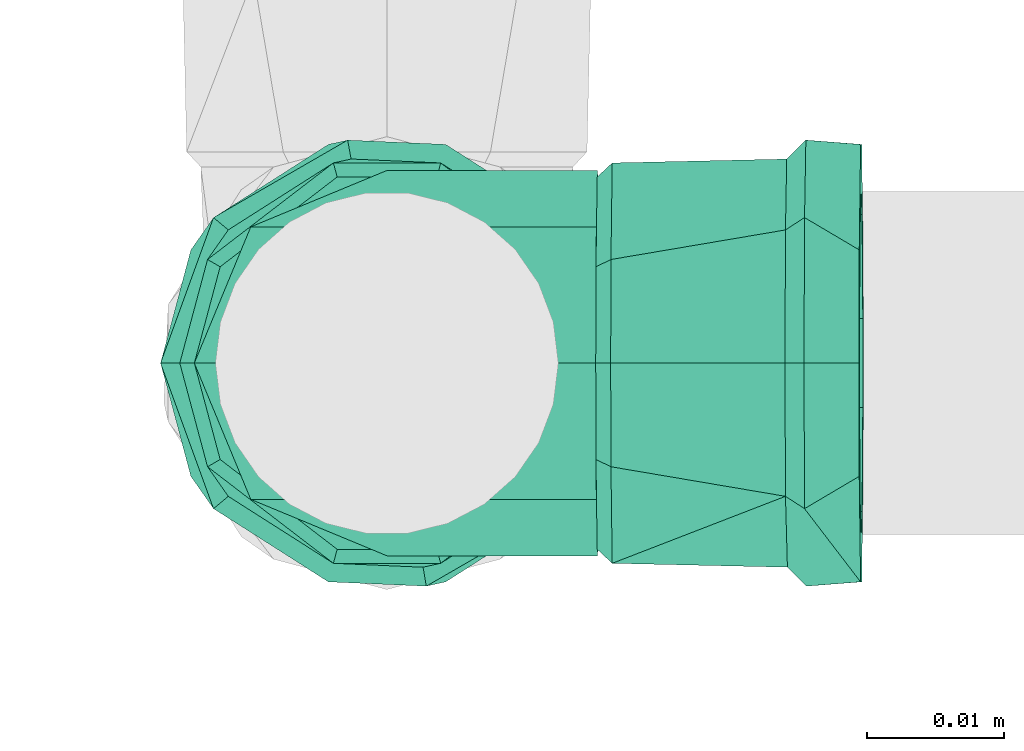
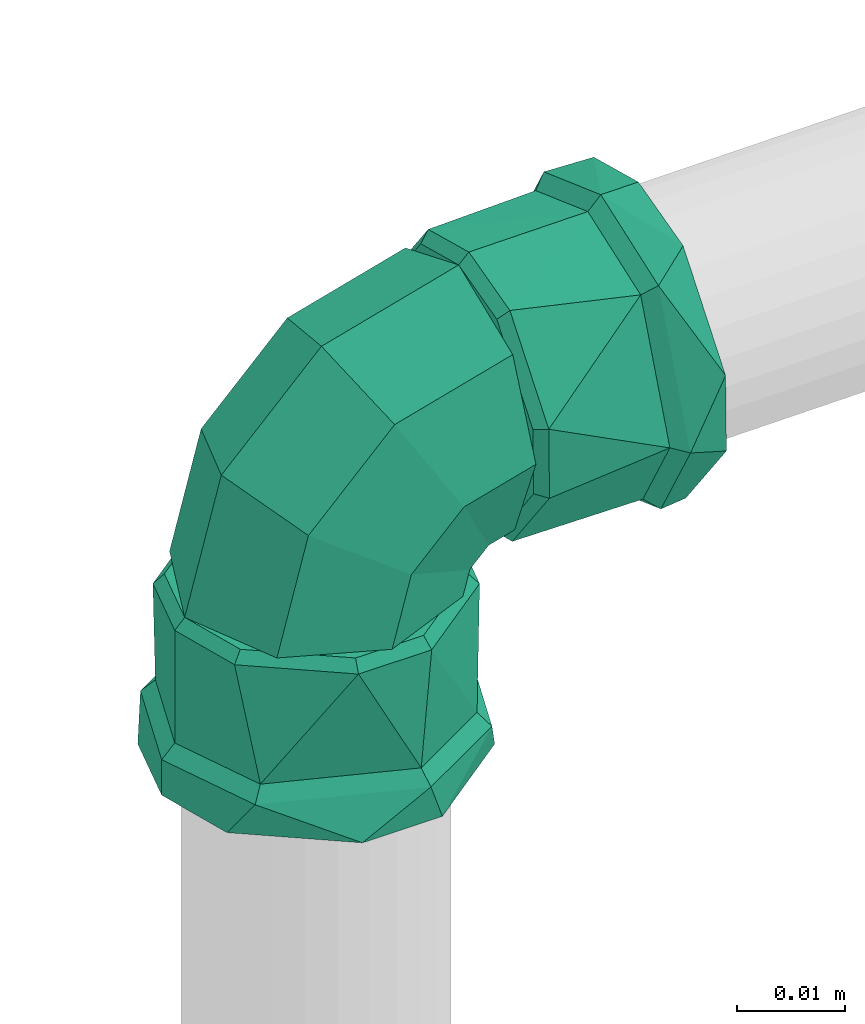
# One storey, part 366 of 589: 1 flow fitting.
"""IFC2X3 building model written with IfcOpenShell, lengths in millimetres."""

from ifc_helpers import new_model, entity, si_unit, converted_unit, derived_unit, direction, frame, origin, place, context, subcontext, project, spatial, faceted_brep, source, transform, mapped, material, type_object, type_shapes, element, save


model = new_model("IFC2X3")

# Units and contexts
model_context = context("Model", 3, precision=0.01, world=origin(), true_north=direction((6.123031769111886e-17, 1.0)))
body_context = subcontext(model_context, "Body", "Model", "MODEL_VIEW")
ifc_project = project(units=[si_unit("LENGTHUNIT", "METRE", prefix="MILLI"), si_unit("AREAUNIT", "SQUARE_METRE"), si_unit("VOLUMEUNIT", "CUBIC_METRE"), converted_unit("PLANEANGLEUNIT", "DEGREE", entity("IfcRatioMeasure", 0.017453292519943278), si_unit("PLANEANGLEUNIT", "RADIAN"), dimensions=[0, 0, 0, 0, 0, 0, 0]), si_unit("MASSUNIT", "GRAM", prefix="KILO"), derived_unit("MASSDENSITYUNIT", [(si_unit("MASSUNIT", "GRAM", prefix="KILO"), 1), (si_unit("LENGTHUNIT", "METRE"), -3)]), derived_unit("IONCONCENTRATIONUNIT", [(si_unit("MASSUNIT", "GRAM", prefix="KILO"), 1), (si_unit("LENGTHUNIT", "METRE"), -3)]), derived_unit("MOMENTOFINERTIAUNIT", [(si_unit("LENGTHUNIT", "METRE"), 4)]), si_unit("TIMEUNIT", "SECOND"), si_unit("FREQUENCYUNIT", "HERTZ"), si_unit("THERMODYNAMICTEMPERATUREUNIT", "DEGREE_CELSIUS"), derived_unit("THERMALTRANSMITTANCEUNIT", [(si_unit("MASSUNIT", "GRAM", prefix="KILO"), 1), (si_unit("THERMODYNAMICTEMPERATUREUNIT", "KELVIN"), -1), (si_unit("TIMEUNIT", "SECOND"), -3)]), derived_unit("THERMALCONDUCTANCEUNIT", [(si_unit("MASSUNIT", "GRAM", prefix="KILO"), 1), (si_unit("THERMODYNAMICTEMPERATUREUNIT", "KELVIN"), -1), (si_unit("TIMEUNIT", "SECOND"), -3), (si_unit("LENGTHUNIT", "METRE"), 1)]), derived_unit("VOLUMETRICFLOWRATEUNIT", [(si_unit("LENGTHUNIT", "METRE"), 3), (si_unit("TIMEUNIT", "SECOND"), -1)]), derived_unit("MASSFLOWRATEUNIT", [(si_unit("MASSUNIT", "GRAM", prefix="KILO"), 1), (si_unit("TIMEUNIT", "SECOND"), -1)]), derived_unit("ROTATIONALFREQUENCYUNIT", [(si_unit("TIMEUNIT", "SECOND"), -1)]), si_unit("ELECTRICCURRENTUNIT", "AMPERE"), si_unit("ELECTRICVOLTAGEUNIT", "VOLT"), si_unit("POWERUNIT", "WATT"), si_unit("FORCEUNIT", "NEWTON", prefix="KILO"), si_unit("ILLUMINANCEUNIT", "LUX"), si_unit("LUMINOUSFLUXUNIT", "LUMEN"), si_unit("LUMINOUSINTENSITYUNIT", "CANDELA"), derived_unit("USERDEFINED", [(si_unit("MASSUNIT", "GRAM", prefix="KILO"), -1), (si_unit("LENGTHUNIT", "METRE"), -2), (si_unit("TIMEUNIT", "SECOND"), 3), (si_unit("LUMINOUSFLUXUNIT", "LUMEN"), 1)]), derived_unit("USERDEFINED", [(si_unit("MASSUNIT", "GRAM", prefix="KILO"), 1), (si_unit("TIMEUNIT", "SECOND"), -3), (si_unit("LENGTHUNIT", "METRE"), 3), (si_unit("ELECTRICCURRENTUNIT", "AMPERE"), -2)]), derived_unit("SOUNDPOWERUNIT", [(si_unit("MASSUNIT", "GRAM", prefix="KILO"), 1), (si_unit("TIMEUNIT", "SECOND"), -3), (si_unit("LENGTHUNIT", "METRE"), 2)]), derived_unit("SOUNDPRESSUREUNIT", [(si_unit("MASSUNIT", "GRAM", prefix="KILO"), 1), (si_unit("LENGTHUNIT", "METRE"), -1), (si_unit("TIMEUNIT", "SECOND"), -2)]), derived_unit("LINEARVELOCITYUNIT", [(si_unit("LENGTHUNIT", "METRE"), 1), (si_unit("TIMEUNIT", "SECOND"), -1)]), si_unit("PRESSUREUNIT", "PASCAL"), derived_unit("USERDEFINED", [(si_unit("MASSUNIT", "GRAM", prefix="KILO"), 1), (si_unit("LENGTHUNIT", "METRE"), -2), (si_unit("TIMEUNIT", "SECOND"), -2)]), derived_unit("LINEARFORCEUNIT", [(si_unit("MASSUNIT", "GRAM", prefix="KILO"), 1), (si_unit("TIMEUNIT", "SECOND"), -2)]), derived_unit("PLANARFORCEUNIT", [(si_unit("MASSUNIT", "GRAM", prefix="KILO"), 1), (si_unit("LENGTHUNIT", "METRE"), -1), (si_unit("TIMEUNIT", "SECOND"), -2)]), derived_unit("SPECIFICHEATCAPACITYUNIT", [(si_unit("THERMODYNAMICTEMPERATUREUNIT", "KELVIN"), -1), (si_unit("LENGTHUNIT", "METRE"), 2), (si_unit("TIMEUNIT", "SECOND"), -2)]), derived_unit("HEATINGVALUEUNIT", [(si_unit("LENGTHUNIT", "METRE"), 2), (si_unit("TIMEUNIT", "SECOND"), -2)]), derived_unit("VAPORPERMEABILITYUNIT", [(si_unit("LENGTHUNIT", "METRE"), -1), (si_unit("TIMEUNIT", "SECOND"), 1)]), derived_unit("DYNAMICVISCOSITYUNIT", [(si_unit("MASSUNIT", "GRAM", prefix="KILO"), 1), (si_unit("TIMEUNIT", "SECOND"), -1), (si_unit("LENGTHUNIT", "METRE"), -1)]), derived_unit("THERMALEXPANSIONCOEFFICIENTUNIT", [(si_unit("THERMODYNAMICTEMPERATUREUNIT", "KELVIN"), -1)]), derived_unit("MODULUSOFELASTICITYUNIT", [(si_unit("MASSUNIT", "GRAM", prefix="KILO"), 1), (si_unit("LENGTHUNIT", "METRE"), -1), (si_unit("TIMEUNIT", "SECOND"), -2)]), derived_unit("ISOTHERMALMOISTURECAPACITYUNIT", [(si_unit("LENGTHUNIT", "METRE"), 3), (si_unit("MASSUNIT", "GRAM", prefix="KILO"), -1)]), derived_unit("MOISTUREDIFFUSIVITYUNIT", [(si_unit("TIMEUNIT", "SECOND"), -1), (si_unit("LENGTHUNIT", "METRE"), 2)])], contexts=[model_context])

# Site, building, storey
site_placement = place(None, origin())
site = spatial("IfcSite", under=ifc_project, at=site_placement, Name="Default", CompositionType="ELEMENT")
building_placement = place(site_placement, origin())
building = spatial("IfcBuilding", under=site, at=building_placement, CompositionType="ELEMENT")
storey_placement = place(building_placement, frame((0.0, 0.0, 100.0)))
storey = spatial("IfcBuildingStorey", under=building, at=storey_placement, Name="TÉRREO", CompositionType="ELEMENT", Elevation=100.0)

# Flow fitting
ifc_material = material(Name="PVC Marrom")
pipe_fitting_type = type_object("IfcPipeFittingType", Name="PVC Marrom Soldável_Joelho 45°_90°_Rodrigo MEP:Joelho", PredefinedType="NOTDEFINED", material=ifc_material)
shared_shape = source(origin(), body_context, "Body", "Brep", [
    faceted_brep([(4.072421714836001, -16.405873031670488, 14.585479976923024), (-3.7435226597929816, -16.48403247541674, 14.585479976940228), (-12.911880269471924, -16.57571605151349, 7.549999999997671), (-14.934795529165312, -16.59594520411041, 0.0), (-12.91188026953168, -16.575716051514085, -7.550000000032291), (-3.7435226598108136, -16.48403247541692, -14.585479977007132), (4.07242171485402, -16.405873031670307, -14.585479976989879), (13.240779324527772, -16.314189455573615, -7.55000000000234), (15.263694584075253, -16.29396030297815, 0.0), (13.240779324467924, -16.314189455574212, 7.549999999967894), (3.7870877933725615, -15.308671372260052, 13.561598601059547), (12.31183884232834, -15.223423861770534, 7.019999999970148), (14.192748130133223, -15.204614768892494, 0.0), (12.311838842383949, -15.223423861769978, -7.02000000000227), (3.7870877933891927, -15.308671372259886, -13.561598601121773), (-3.480187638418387, -15.381344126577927, -13.561598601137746), (-12.004938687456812, -15.466591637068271, -7.020000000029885), (-13.885847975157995, -15.485400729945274, 0.0), (-12.004938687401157, -15.466591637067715, 7.0199999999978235), (-3.4801876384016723, -15.38134412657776, 13.561598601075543)], [[[0, 1, 2, 3, 4, 5, 6, 7, 8, 9]], [[10, 11, 12, 13, 14, 15, 16, 17, 18, 19]], [[13, 12, 8, 7]], [[14, 13, 7, 6]], [[6, 5, 15, 14]], [[16, 15, 5, 4]], [[17, 16, 4, 3]], [[18, 17, 3, 2]], [[19, 18, 2, 1]], [[1, 0, 10, 19]], [[11, 10, 0, 9]], [[12, 11, 9, 8]]]),
    faceted_brep([(-16.445774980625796, -3.908167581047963, 14.585479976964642), (-16.445774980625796, 3.908167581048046, 14.585479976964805), (-16.445774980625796, 13.076983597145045, 7.550000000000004), (-16.445774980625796, 15.100000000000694, 0.0), (-16.445774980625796, 13.0769835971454, -7.550000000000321), (-16.445774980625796, 3.9081675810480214, -14.585479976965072), (-16.445774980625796, -3.9081675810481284, -14.58547997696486), (-16.445774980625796, -13.076983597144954, -7.54999999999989), (-16.445774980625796, -15.099999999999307, 0.0), (-16.445774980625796, -13.076983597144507, 7.549999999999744), (-15.345774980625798, 3.633819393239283, 13.56159860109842), (-15.345774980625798, -3.6338193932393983, 13.561598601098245), (-15.345774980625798, -12.158996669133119, 7.019999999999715), (-15.345774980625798, -14.040000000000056, 0.0), (-15.345774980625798, -12.158996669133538, -7.019999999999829), (-15.345774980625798, -3.6338193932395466, -13.56159860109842), (-15.345774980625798, 3.63381939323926, -13.561598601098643), (-15.345774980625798, 12.158996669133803, -7.020000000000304), (-15.345774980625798, 14.039999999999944, 0.0), (-15.345774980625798, 12.15899666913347, 7.020000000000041)], [[[0, 1, 2, 3, 4, 5, 6, 7, 8, 9]], [[10, 11, 12, 13, 14, 15, 16, 17, 18, 19]], [[14, 13, 8, 7]], [[15, 14, 7, 6]], [[6, 5, 16, 15]], [[17, 16, 5, 4]], [[18, 17, 4, 3]], [[19, 18, 3, 2]], [[10, 19, 2, 1]], [[1, 0, 11, 10]], [[12, 11, 0, 9]], [[13, 12, 9, 8]]]),
    faceted_brep([(-34.545774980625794, 0.0, -12.5), (-34.545774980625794, 6.250000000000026, -10.825317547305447), (-34.545774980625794, 4.2705142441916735, -15.937776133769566), (-34.545774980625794, -4.270514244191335, -15.937776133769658), (-34.545774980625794, -6.250000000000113, -10.82531754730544), (-34.545774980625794, 14.289419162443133, -8.25000000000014), (-34.545774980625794, 12.074072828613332, -3.23523806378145), (-34.545774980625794, 16.5, 0.0), (-34.545774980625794, 12.074072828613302, 3.2352380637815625), (-34.545774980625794, 14.289419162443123, 8.249999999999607), (-34.545774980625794, 6.249999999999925, 10.825317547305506), (-34.545774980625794, 4.27051424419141, 15.937776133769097), (-34.545774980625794, 0.0, 12.5), (-34.545774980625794, -4.270514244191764, 15.937776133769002), (-34.545774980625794, -6.249999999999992, 10.825317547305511), (-34.545774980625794, -14.28941916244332, 8.249999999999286), (-34.545774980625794, -12.074072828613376, 3.2352380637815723), (-34.545774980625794, -16.5, 0.0), (-34.545774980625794, -12.074072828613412, -3.235238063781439), (-34.545774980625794, -14.289419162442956, -8.250000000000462), (-30.545774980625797, -16.5, 0.0), (-30.545774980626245, -12.639142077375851, 10.606700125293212), (-30.545774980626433, -4.885841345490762, 13.427814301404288), (-30.54577498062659, 2.8674593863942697, 16.24892847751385), (-30.545774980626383, 12.64180232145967, 10.603529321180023), (-30.545774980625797, 16.499999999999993, 0.0), (-30.545774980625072, 12.641802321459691, -10.603529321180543), (-30.545774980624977, 4.889209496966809, -13.426588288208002), (-30.54577498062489, -2.8633833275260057, -16.249647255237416), (-30.545774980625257, -12.639142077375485, -10.606700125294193), (-29.145774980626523, 11.56916454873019, 9.703835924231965), (-29.145774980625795, 15.099999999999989, 0.0), (-29.145774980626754, 2.624159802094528, 14.870231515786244), (-29.145774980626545, -4.471285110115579, 12.288484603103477), (-29.14577498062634, -11.566730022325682, 9.706737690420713), (-29.145774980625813, -15.099999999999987, 0.0), (-29.14577498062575, -11.566730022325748, -9.706737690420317), (-29.145774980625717, -2.620429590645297, -14.87088930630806), (-29.14577498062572, 4.4743674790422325, -12.287362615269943), (-29.145774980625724, 11.569164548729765, -9.703835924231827), (-16.445774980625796, 3.908167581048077, -14.585479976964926), (-16.445774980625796, 6.250000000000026, -10.825317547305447), (-16.445774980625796, 0.0, -12.5), (-16.445774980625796, 13.076983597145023, -7.549999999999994), (-16.445774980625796, -3.9081675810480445, -14.585479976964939), (-16.445774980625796, 12.074072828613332, -3.23523806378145), (-16.445774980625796, 15.099999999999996, 0.0), (-16.445774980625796, 12.074072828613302, 3.2352380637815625), (-16.445774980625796, 13.076983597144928, 7.550000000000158), (-16.445774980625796, 6.249999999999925, 10.825317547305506), (-16.445774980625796, 3.9081675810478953, 14.585479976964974), (-16.445774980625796, 0.0, 12.5), (-16.445774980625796, -3.9081675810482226, 14.58547997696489), (-16.445774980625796, -6.249999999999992, 10.825317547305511), (-16.445774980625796, -13.076983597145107, 7.549999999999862), (-16.445774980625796, -12.074072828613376, 3.2352380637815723), (-16.445774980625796, -15.100000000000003, 0.0), (-16.445774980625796, -12.074072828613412, -3.235238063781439), (-16.445774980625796, -13.076983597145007, -7.550000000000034), (-16.445774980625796, -6.250000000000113, -10.82531754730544)], [[[0, 1, 2]], [[2, 3, 0]], [[4, 0, 3]], [[5, 2, 1]], [[1, 6, 5]], [[6, 7, 5]], [[8, 7, 6]], [[7, 8, 9]], [[10, 9, 8]], [[9, 10, 11]], [[12, 11, 10]], [[13, 11, 12]], [[12, 14, 13]], [[13, 14, 15]], [[16, 15, 14]], [[15, 16, 17]], [[16, 18, 17]], [[19, 18, 4]], [[17, 18, 19]], [[3, 19, 4]], [[20, 15, 17]], [[20, 21, 15]], [[13, 15, 21]], [[13, 21, 22, 23]], [[9, 11, 24]], [[7, 9, 25]], [[23, 24, 11]], [[25, 9, 24]], [[13, 23, 11]], [[25, 5, 7]], [[25, 26, 5]], [[2, 5, 26]], [[2, 26, 27, 28]], [[19, 3, 29]], [[17, 19, 20]], [[28, 29, 3]], [[20, 19, 29]], [[2, 28, 3]], [[24, 30, 31, 25]], [[30, 24, 23, 32]], [[33, 32, 23, 22, 21, 34]], [[20, 35, 34, 21]], [[29, 36, 35, 20]], [[36, 29, 28, 37]], [[38, 37, 28, 27, 26, 39]], [[25, 31, 39, 26]], [[40, 41, 42]], [[41, 40, 43]], [[42, 44, 40]], [[43, 45, 41]], [[43, 46, 45]], [[45, 46, 47]], [[48, 47, 46]], [[47, 48, 49]], [[50, 49, 48]], [[49, 50, 51]], [[51, 50, 52]], [[52, 53, 51]], [[54, 53, 52]], [[53, 54, 55]], [[56, 55, 54]], [[56, 57, 55]], [[58, 57, 56]], [[59, 57, 58]], [[59, 58, 44]], [[44, 42, 59]], [[54, 34, 35]], [[56, 54, 35]], [[52, 34, 54]], [[52, 32, 33, 34]], [[30, 32, 50]], [[31, 30, 48]], [[50, 48, 30]], [[46, 31, 48]], [[52, 50, 32]], [[43, 39, 31]], [[46, 43, 31]], [[40, 39, 43]], [[40, 37, 38, 39]], [[36, 37, 44]], [[35, 36, 58]], [[44, 58, 36]], [[56, 35, 58]], [[40, 44, 37]], [[49, 51, 12, 10]], [[47, 49, 10, 8]], [[8, 6, 45, 47]], [[41, 45, 6, 1]], [[42, 41, 1, 0]], [[59, 42, 0, 4]], [[57, 59, 4, 18]], [[18, 16, 55, 57]], [[53, 55, 16, 14]], [[51, 53, 14, 12]]]),
    faceted_brep([(10.13758433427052, -0.5597858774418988, 0.0), (6.590082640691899, -2.6395915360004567, 9.92777920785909), (10.080732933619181, -15.245734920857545, 9.92777920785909), (14.192748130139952, -15.20461476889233, 0.0), (-1.9743440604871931, -7.660686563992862, 14.04), (0.15345007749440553, -15.34500774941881, 14.04), (-10.538770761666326, -12.681781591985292, 9.927779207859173), (-9.77383277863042, -15.444280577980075, 9.927779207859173), (-14.086272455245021, -14.761587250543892, 0.0), (-13.885847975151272, -15.48540072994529, 0.0), (-10.538770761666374, -12.681781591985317, -9.92777920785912), (-9.77383277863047, -15.444280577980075, -9.92777920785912), (-1.974344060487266, -7.660686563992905, -14.04), (0.15345007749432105, -15.34500774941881, -14.04), (6.590082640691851, -2.6395915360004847, -9.927779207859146), (10.080732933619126, -15.245734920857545, -9.927779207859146), (-0.6611286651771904, 10.131479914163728, 0.0), (-2.7053570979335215, 6.563358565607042, 9.92777920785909), (-7.640561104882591, -2.050848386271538, 14.04), (-12.575765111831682, -10.665055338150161, 9.927779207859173), (-14.619993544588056, -14.233176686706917, 0.0), (-12.57576511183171, -10.665055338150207, -9.92777920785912), (-7.640561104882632, -2.050848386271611, -14.04), (-2.705357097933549, 6.563358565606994, -9.927779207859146), (-15.345774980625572, 14.03999999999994, 0.0), (-15.3457749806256, 9.927779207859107, 9.92777920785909), (-15.345774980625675, 0.0, 14.04), (-15.345774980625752, -9.927779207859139, 9.927779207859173), (-15.345774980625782, -14.040000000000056, 0.0), (-15.345774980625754, -9.927779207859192, -9.92777920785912), (-15.345774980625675, 0.0, -14.04), (-15.3457749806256, 9.92777920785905, -9.927779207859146)], [[[0, 1, 2, 3]], [[1, 4, 5, 2]], [[4, 6, 7, 5]], [[6, 8, 9, 7]], [[8, 10, 11, 9]], [[10, 12, 13, 11]], [[12, 14, 15, 13]], [[14, 0, 3, 15]], [[16, 17, 1, 0]], [[17, 18, 4, 1]], [[18, 19, 6, 4]], [[19, 20, 8, 6]], [[20, 21, 10, 8]], [[21, 22, 12, 10]], [[22, 23, 14, 12]], [[23, 16, 0, 14]], [[24, 25, 17, 16]], [[25, 26, 18, 17]], [[26, 27, 19, 18]], [[27, 28, 20, 19]], [[28, 29, 21, 20]], [[29, 30, 22, 21]], [[30, 31, 23, 22]], [[31, 24, 16, 23]], [[3, 2, 5, 7, 9, 11, 13, 15]], [[31, 30, 29, 28, 27, 26, 25, 24]]]),
    faceted_brep([(-3.743522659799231, -16.484032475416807, -14.585479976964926), (-6.085237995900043, -16.507449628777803, -10.825317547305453), (0.16444952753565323, -16.444952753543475, -12.5), (-12.911880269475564, -16.575716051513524, -7.5499999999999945), (4.072421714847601, -16.40587303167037, -14.585479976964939), (-11.90901964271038, -16.565687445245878, -3.235238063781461), (-14.934795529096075, -16.595945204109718, 0.0), (-11.90901964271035, -16.565687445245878, 3.2352380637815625), (-12.911880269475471, -16.575716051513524, 7.550000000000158), (-6.08523799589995, -16.507449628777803, 10.825317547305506), (-3.7435226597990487, -16.484032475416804, 14.585479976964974), (0.16444952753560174, -16.444952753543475, 12.5), (4.0724217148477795, -16.40587303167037, 14.58547997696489), (6.414137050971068, -16.38245587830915, 10.825317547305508), (13.240779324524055, -16.31418945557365, 7.549999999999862), (12.23791869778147, -16.324218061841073, 3.2352380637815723), (15.263694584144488, -16.293960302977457, 0.0), (12.23791869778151, -16.324218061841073, -3.235238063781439), (13.240779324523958, -16.31418945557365, -7.550000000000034), (6.414137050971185, -16.38245587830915, -10.82531754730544), (11.85759490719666, -29.02865628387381, 9.706737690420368), (15.39068823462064, -28.99332535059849, 0.0), (2.911741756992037, -29.11811481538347, 14.870889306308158), (-11.27714295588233, -29.260003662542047, 9.703835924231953), (-4.182700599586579, -29.189059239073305, 12.287362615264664), (-14.807801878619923, -29.29531025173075, 0.0), (-11.27714295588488, -29.26000366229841, -9.703835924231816), (-2.332585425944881, -29.170558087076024, -14.870231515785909), (11.857594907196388, -29.028656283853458, -9.706737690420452), (4.76250474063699, -29.099607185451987, -12.28848460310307), (3.1727585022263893, -30.515574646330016, 16.248928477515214), (-4.580154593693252, -30.59310377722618, 13.427814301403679), (-16.193732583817, -30.709239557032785, 0.0), (-12.333067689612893, -30.670632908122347, 10.606700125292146), (12.946612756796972, -30.41783610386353, 10.603529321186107), (16.80461753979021, -30.37925605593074, 0.0), (12.946612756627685, -30.41783610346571, -10.603529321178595), (5.194407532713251, -30.495358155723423, -13.426588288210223), (-2.557797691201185, -30.572880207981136, -16.249647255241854), (-12.333067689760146, -30.670632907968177, -10.606700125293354), (0.34544047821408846, -34.54404782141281, -12.5), (-5.904247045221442, -34.606544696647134, -10.825317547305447), (-3.9248602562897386, -34.58675082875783, -15.937776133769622), (4.61574121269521, -34.50134481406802, -15.937776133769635), (6.595128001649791, -34.48155094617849, -10.82531754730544), (-13.94326426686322, -34.68693486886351, -8.24999999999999), (-11.72802869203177, -34.664782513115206, -3.23523806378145), (-16.153734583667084, -34.709039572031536, 0.0), (-11.72802869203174, -34.664782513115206, 3.2352380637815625), (-13.943264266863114, -34.68693486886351, 8.250000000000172), (-5.904247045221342, -34.606544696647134, 10.825317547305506), (-3.92486025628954, -34.58675082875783, 15.937776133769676), (0.34544047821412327, -34.54404782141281, 12.5), (4.615741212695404, -34.50134481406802, 15.937776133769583), (6.5951280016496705, -34.48155094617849, 10.825317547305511), (14.63414522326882, -34.40116077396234, 8.24999999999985), (12.418909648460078, -34.423313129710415, 3.2352380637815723), (16.844615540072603, -34.37905607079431, 0.0), (12.418909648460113, -34.423313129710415, -3.235238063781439), (14.634145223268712, -34.40116077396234, -8.250000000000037)], [[[0, 1, 2]], [[1, 0, 3]], [[2, 4, 0]], [[3, 5, 1]], [[3, 6, 5]], [[5, 6, 7]], [[8, 7, 6]], [[7, 8, 9]], [[10, 9, 8]], [[9, 10, 11]], [[11, 10, 12]], [[12, 13, 11]], [[14, 13, 12]], [[13, 14, 15]], [[16, 15, 14]], [[16, 17, 15]], [[18, 17, 16]], [[19, 17, 18]], [[19, 18, 4]], [[4, 2, 19]], [[14, 20, 21]], [[16, 14, 21]], [[12, 20, 14]], [[12, 22, 20]], [[10, 23, 24, 22]], [[25, 23, 8]], [[10, 8, 23]], [[6, 25, 8]], [[12, 10, 22]], [[3, 26, 25]], [[6, 3, 25]], [[0, 26, 3]], [[0, 27, 26]], [[4, 28, 29, 27]], [[21, 28, 18]], [[4, 18, 28]], [[16, 21, 18]], [[0, 4, 27]], [[30, 22, 31]], [[32, 23, 25]], [[33, 23, 32]], [[31, 24, 33]], [[34, 21, 20]], [[24, 23, 33]], [[20, 30, 34]], [[21, 34, 35]], [[24, 31, 22]], [[22, 30, 20]], [[36, 28, 21]], [[21, 35, 36]], [[36, 37, 28]], [[37, 29, 28]], [[37, 38, 29]], [[32, 25, 26]], [[27, 39, 26]], [[32, 26, 39]], [[27, 29, 38]], [[38, 39, 27]], [[40, 41, 42]], [[42, 43, 40]], [[44, 40, 43]], [[45, 42, 41]], [[41, 46, 45]], [[46, 47, 45]], [[48, 47, 46]], [[47, 48, 49]], [[50, 49, 48]], [[49, 50, 51]], [[52, 51, 50]], [[53, 51, 52]], [[52, 54, 53]], [[53, 54, 55]], [[56, 55, 54]], [[55, 56, 57]], [[56, 58, 57]], [[59, 58, 44]], [[57, 58, 59]], [[43, 59, 44]], [[35, 55, 57]], [[35, 34, 55]], [[53, 55, 34]], [[30, 53, 34]], [[49, 51, 33]], [[47, 49, 32]], [[51, 30, 31, 33]], [[32, 49, 33]], [[53, 30, 51]], [[32, 45, 47]], [[32, 39, 45]], [[42, 45, 39]], [[38, 42, 39]], [[59, 43, 36]], [[57, 59, 35]], [[43, 38, 37, 36]], [[35, 59, 36]], [[42, 38, 43]], [[9, 11, 52, 50]], [[7, 9, 50, 48]], [[48, 46, 5, 7]], [[1, 5, 46, 41]], [[2, 1, 41, 40]], [[19, 2, 40, 44]], [[17, 19, 44, 58]], [[58, 56, 15, 17]], [[13, 15, 56, 54]], [[11, 13, 54, 52]]]),
])
type_shapes(pipe_fitting_type, [shared_shape])
flow_fitting_placement = place(storey_placement, frame((-5474.119390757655, 1472.3181323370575, 2577.582658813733), z_axis=(0.0, 1.0, 0.0), x_axis=(-0.9999500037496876, 0.0, -0.009999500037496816)))
element("IfcFlowFitting", 1, at=flow_fitting_placement, inside=storey, type_object=pipe_fitting_type, material=ifc_material, Name="PVC Marrom Soldável_Joelho 45°_90°_Rodrigo MEP:Joelho", ObjectType="PVC Marrom Soldável_Joelho 45°_90°_Rodrigo MEP:Joelho", context=body_context, shape_type="MappedRepresentation", body=[
    mapped(shared_shape, transform((0.0, 0.0, 0.0), scale=1.0)),
])

save(model, "model.ifc")
